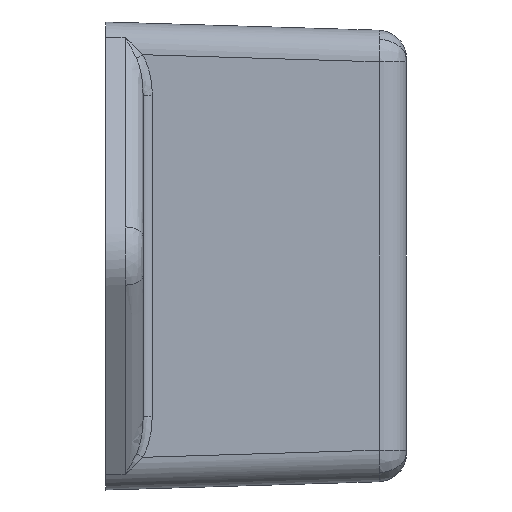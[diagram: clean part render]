
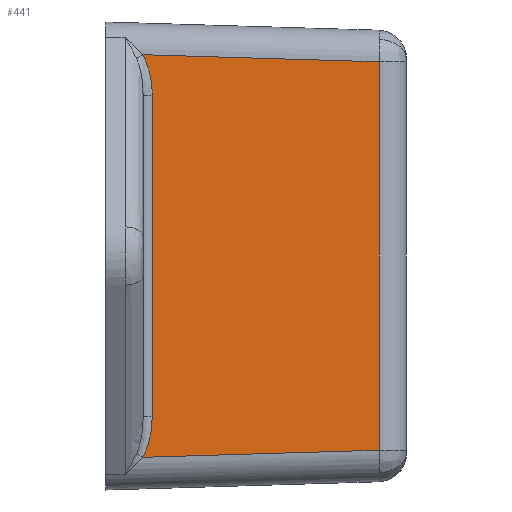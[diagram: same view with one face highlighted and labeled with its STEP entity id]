
A CAD part, left-side view. The second image highlights one B-rep face of the part: STEP entity #441.
In plain terms, the highlighted planar face has unit normal (-1, -0.03, 0).
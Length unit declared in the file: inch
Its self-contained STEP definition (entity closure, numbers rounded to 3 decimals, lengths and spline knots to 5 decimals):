
#13 = VERTEX_POINT ( 'NONE', #998 ) ;
#120 = VERTEX_POINT ( 'NONE', #1201 ) ;
#132 = ORIENTED_EDGE ( 'NONE', *, *, #242, .T. ) ;
#133 = VERTEX_POINT ( 'NONE', #1177 ) ;
#241 = EDGE_CURVE ( 'NONE', #326, #13, #1456, .T. ) ;
#242 = EDGE_CURVE ( 'NONE', #243, #120, #1398, .T. ) ;
#243 = VERTEX_POINT ( 'NONE', #1396 ) ;
#284 = EDGE_CURVE ( 'NONE', #13, #133, #1361, .T. ) ;
#286 = VERTEX_POINT ( 'NONE', #1527 ) ;
#326 = VERTEX_POINT ( 'NONE', #1554 ) ;
#327 = EDGE_CURVE ( 'NONE', #120, #286, #1607, .T. ) ;
#360 = ORIENTED_EDGE ( 'NONE', *, *, #362, .T. ) ;
#361 = ORIENTED_EDGE ( 'NONE', *, *, #327, .T. ) ;
#362 = EDGE_CURVE ( 'NONE', #286, #326, #1672, .T. ) ;
#440 = ORIENTED_EDGE ( 'NONE', *, *, #241, .T. ) ;
#441 = ADVANCED_FACE ( 'NONE', ( #1892 ), #1887, .T. ) ;
#442 = ORIENTED_EDGE ( 'NONE', *, *, #444, .T. ) ;
#443 = ORIENTED_EDGE ( 'NONE', *, *, #284, .T. ) ;
#444 = EDGE_CURVE ( 'NONE', #133, #243, #2002, .T. ) ;
#464 = EDGE_LOOP ( 'NONE', ( #443, #442, #132, #361, #360, #440 ) ) ;
#998 = CARTESIAN_POINT ( 'NONE',  ( -1.00521, -0.90882, 0.64526 ) ) ;
#1177 = CARTESIAN_POINT ( 'NONE',  ( -1.02882, -0.12248, 0.66887 ) ) ;
#1201 = CARTESIAN_POINT ( 'NONE',  ( -1.02784, -0.15531, -0.53402 ) ) ;
#1348 = DIRECTION ( 'NONE',  ( -0.03, 0.999, 0.03 ) ) ;
#1355 = VECTOR ( 'NONE', #1348, 39.37008 ) ;
#1360 = CARTESIAN_POINT ( 'NONE',  ( -1.03119, -0.04346, 0.67124 ) ) ;
#1361 = LINE ( 'NONE', #1360, #1355 ) ;
#1392 = DIRECTION ( 'NONE',  ( 0., 0., -1. ) ) ;
#1393 = VECTOR ( 'NONE', #1392, 39.37008 ) ;
#1396 = CARTESIAN_POINT ( 'NONE',  ( -1.02784, -0.15531, 0.53402 ) ) ;
#1397 = CARTESIAN_POINT ( 'NONE',  ( -1.02784, -0.15531, -0.7775 ) ) ;
#1398 = LINE ( 'NONE', #1397, #1393 ) ;
#1399 = DIRECTION ( 'NONE',  ( 0., 0., 1. ) ) ;
#1400 = VECTOR ( 'NONE', #1399, 39.37008 ) ;
#1455 = CARTESIAN_POINT ( 'NONE',  ( -1.00521, -0.90882, 0.64252 ) ) ;
#1456 = LINE ( 'NONE', #1455, #1400 ) ;
#1527 = CARTESIAN_POINT ( 'NONE',  ( -1.02882, -0.12248, -0.66887 ) ) ;
#1554 = CARTESIAN_POINT ( 'NONE',  ( -1.00521, -0.90882, -0.64526 ) ) ;
#1589 = CARTESIAN_POINT ( 'NONE',  ( -1.02882, -0.12248, -0.66887 ) ) ;
#1599 = CARTESIAN_POINT ( 'NONE',  ( -1.02863, -0.12879, -0.65885 ) ) ;
#1600 = CARTESIAN_POINT ( 'NONE',  ( -1.02848, -0.13376, -0.64829 ) ) ;
#1601 = CARTESIAN_POINT ( 'NONE',  ( -1.02823, -0.14203, -0.62648 ) ) ;
#1602 = CARTESIAN_POINT ( 'NONE',  ( -1.02814, -0.14532, -0.61516 ) ) ;
#1603 = CARTESIAN_POINT ( 'NONE',  ( -1.02791, -0.15301, -0.58079 ) ) ;
#1604 = CARTESIAN_POINT ( 'NONE',  ( -1.02784, -0.15531, -0.55754 ) ) ;
#1605 = CARTESIAN_POINT ( 'NONE',  ( -1.02784, -0.15531, -0.53402 ) ) ;
#1607 = B_SPLINE_CURVE_WITH_KNOTS ( 'NONE', 3,
 ( #1605, #1604, #1603, #1602, #1601, #1600, #1599, #1589 ),
 .UNSPECIFIED., .F., .F.,
 ( 4, 2, 2, 4 ),
 ( 0., 0.00178, 0.00267, 0.00356 ),
 .UNSPECIFIED. ) ;
#1662 = DIRECTION ( 'NONE',  ( 0.03, -0.999, 0.03 ) ) ;
#1663 = VECTOR ( 'NONE', #1662, 39.37008 ) ;
#1671 = CARTESIAN_POINT ( 'NONE',  ( -1.03259, 0.00315, -0.67264 ) ) ;
#1672 = LINE ( 'NONE', #1671, #1663 ) ;
#1881 = DIRECTION ( 'NONE',  ( 0.03, -1., 0. ) ) ;
#1882 = DIRECTION ( 'NONE',  ( -1., -0.03, 0. ) ) ;
#1887 = PLANE ( 'NONE',  #1969 ) ;
#1891 = CARTESIAN_POINT ( 'NONE',  ( -1.0325, 0., -0.7775 ) ) ;
#1892 = FACE_OUTER_BOUND ( 'NONE', #464, .T. ) ;
#1969 = AXIS2_PLACEMENT_3D ( 'NONE', #1891, #1882, #1881 ) ;
#1994 = CARTESIAN_POINT ( 'NONE',  ( -1.02784, -0.15531, 0.53402 ) ) ;
#1995 = CARTESIAN_POINT ( 'NONE',  ( -1.02784, -0.15531, 0.55755 ) ) ;
#1996 = CARTESIAN_POINT ( 'NONE',  ( -1.02791, -0.153, 0.58074 ) ) ;
#1997 = CARTESIAN_POINT ( 'NONE',  ( -1.02813, -0.14539, 0.6149 ) ) ;
#1998 = CARTESIAN_POINT ( 'NONE',  ( -1.02823, -0.14211, 0.62626 ) ) ;
#1999 = CARTESIAN_POINT ( 'NONE',  ( -1.02848, -0.13379, 0.64825 ) ) ;
#2000 = CARTESIAN_POINT ( 'NONE',  ( -1.02863, -0.12878, 0.65886 ) ) ;
#2001 = CARTESIAN_POINT ( 'NONE',  ( -1.02882, -0.12248, 0.66887 ) ) ;
#2002 = B_SPLINE_CURVE_WITH_KNOTS ( 'NONE', 3,
 ( #2001, #2000, #1999, #1998, #1997, #1996, #1995, #1994 ),
 .UNSPECIFIED., .F., .F.,
 ( 4, 2, 2, 4 ),
 ( 0., 0.00089, 0.00179, 0.00358 ),
 .UNSPECIFIED. ) ;
